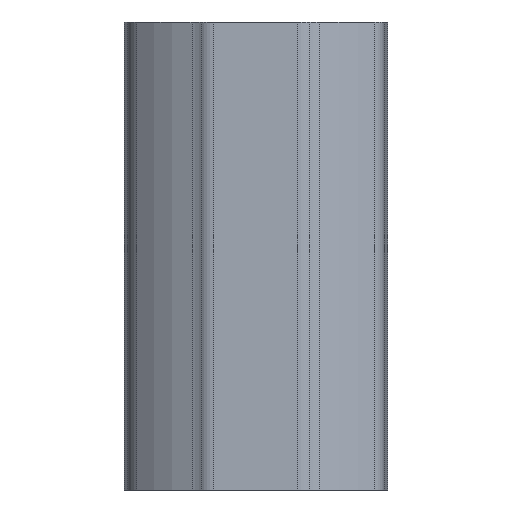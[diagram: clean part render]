
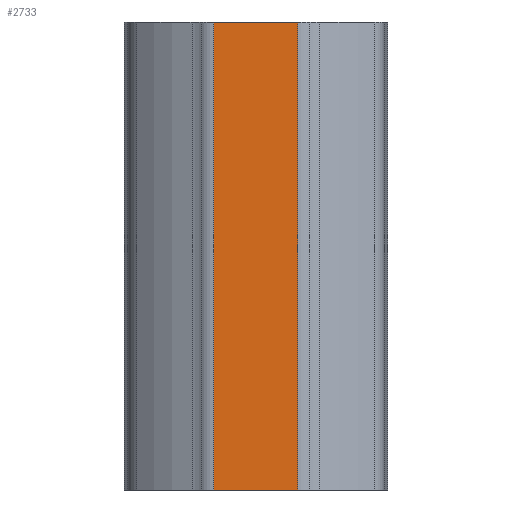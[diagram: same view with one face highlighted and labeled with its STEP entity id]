
A CAD part, left-side view. The second image highlights one B-rep face of the part: STEP entity #2733.
In plain terms, the highlighted planar face has unit normal (-1, 0.002, 0).
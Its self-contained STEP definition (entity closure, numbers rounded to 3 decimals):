
#127 = EDGE_CURVE ( 'NONE', #806, #1122, #1098, .T. ) ;
#271 = AXIS2_PLACEMENT_3D ( 'NONE', #966, #610, #645 ) ;
#350 = DIRECTION ( 'NONE',  ( -0.002, -1., 0. ) ) ;
#574 = DIRECTION ( 'NONE',  ( 0., 0., -1. ) ) ;
#610 = DIRECTION ( 'NONE',  ( 1., -0.002, 0. ) ) ;
#620 = PLANE ( 'NONE',  #271 ) ;
#643 = EDGE_LOOP ( 'NONE', ( #3231, #662, #2082, #1297 ) ) ;
#645 = DIRECTION ( 'NONE',  ( 0.002, 1., 0. ) ) ;
#662 = ORIENTED_EDGE ( 'NONE', *, *, #3136, .F. ) ;
#791 = CARTESIAN_POINT ( 'NONE',  ( 1220.292, 1683.874, 100. ) ) ;
#806 = VERTEX_POINT ( 'NONE', #3095 ) ;
#835 = VECTOR ( 'NONE', #350, 1000. ) ;
#966 = CARTESIAN_POINT ( 'NONE',  ( 1220.325, 1701.823, 100. ) ) ;
#1076 = LINE ( 'NONE', #2544, #2384 ) ;
#1098 = LINE ( 'NONE', #3914, #2205 ) ;
#1122 = VERTEX_POINT ( 'NONE', #1574 ) ;
#1297 = ORIENTED_EDGE ( 'NONE', *, *, #127, .T. ) ;
#1574 = CARTESIAN_POINT ( 'NONE',  ( 1220.325, 1701.823, 0. ) ) ;
#1637 = CARTESIAN_POINT ( 'NONE',  ( 1220.325, 1701.823, 100. ) ) ;
#1727 = VECTOR ( 'NONE', #3140, 1000. ) ;
#1870 = CARTESIAN_POINT ( 'NONE',  ( 1220.325, 1701.823, 0. ) ) ;
#2014 = VERTEX_POINT ( 'NONE', #2920 ) ;
#2082 = ORIENTED_EDGE ( 'NONE', *, *, #2355, .F. ) ;
#2142 = VERTEX_POINT ( 'NONE', #791 ) ;
#2205 = VECTOR ( 'NONE', #2674, 1000. ) ;
#2355 = EDGE_CURVE ( 'NONE', #806, #2142, #2647, .T. ) ;
#2384 = VECTOR ( 'NONE', #574, 1000. ) ;
#2544 = CARTESIAN_POINT ( 'NONE',  ( 1220.292, 1683.874, 100. ) ) ;
#2647 = LINE ( 'NONE', #1637, #835 ) ;
#2674 = DIRECTION ( 'NONE',  ( 0., 0., -1. ) ) ;
#2733 = ADVANCED_FACE ( 'NONE', ( #2800 ), #620, .F. ) ;
#2800 = FACE_OUTER_BOUND ( 'NONE', #643, .T. ) ;
#2920 = CARTESIAN_POINT ( 'NONE',  ( 1220.292, 1683.874, 0. ) ) ;
#3095 = CARTESIAN_POINT ( 'NONE',  ( 1220.325, 1701.823, 100. ) ) ;
#3101 = LINE ( 'NONE', #1870, #1727 ) ;
#3136 = EDGE_CURVE ( 'NONE', #2142, #2014, #1076, .T. ) ;
#3140 = DIRECTION ( 'NONE',  ( -0.002, -1., 0. ) ) ;
#3190 = EDGE_CURVE ( 'NONE', #1122, #2014, #3101, .T. ) ;
#3231 = ORIENTED_EDGE ( 'NONE', *, *, #3190, .T. ) ;
#3914 = CARTESIAN_POINT ( 'NONE',  ( 1220.325, 1701.823, 100. ) ) ;
